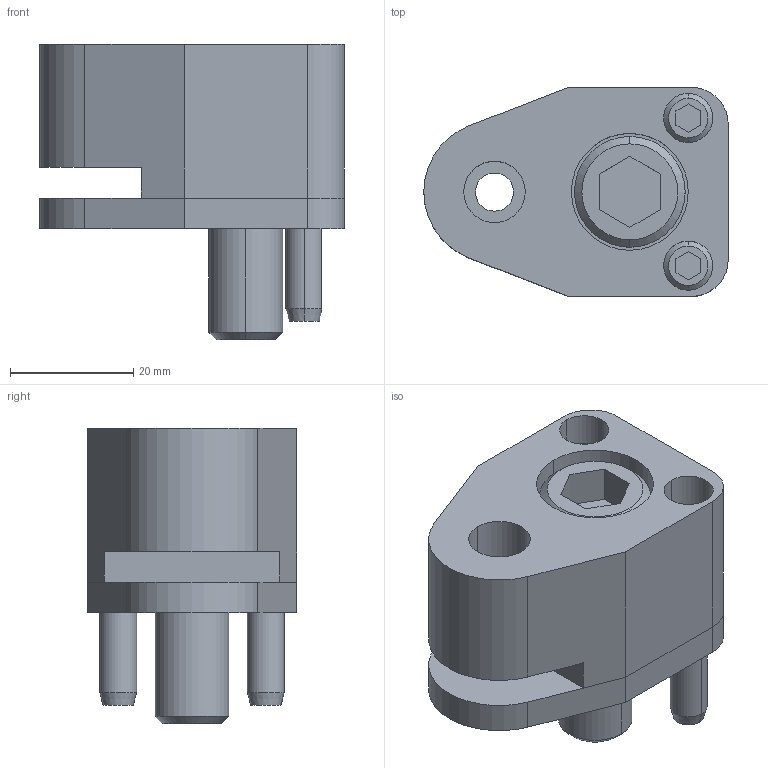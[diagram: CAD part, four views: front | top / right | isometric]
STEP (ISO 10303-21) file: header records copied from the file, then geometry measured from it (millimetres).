
FILE_DESCRIPTION(/* description */ (''),/* implementation_level */ '2;1');
FILE_NAME(/* name */ '3d_sp-fps10_02788_r00.stp',/* time_stamp */ '2011-01-10T14:10:16+09:00',/* author */ ('MISUMI'),/* organization */ (''),/* preprocessor_version */ 'ST-DEVELOPER v11',/* originating_system */ 'UGS - NX 5.0',/* authorisation */ '');
FILE_SCHEMA (('CONFIG_CONTROL_DESIGN'));
Length unit declared in the file: millimetre
Products named in the file (1): 3d_sp-fps10_02788_r00
Bounding box: 49.5 x 34 x 48 mm (x, y, z)
Volume: 39539.8 mm3; surface area: 17157.5 mm2
Topology: 7 solids, 7 shells, 129 faces, 294 edges, 189 vertices
Faces by surface type: plane 57, cylinder 50, cone 22
Entity records: 3792 total; most frequent: DIRECTION 672, CARTESIAN_POINT 666, ORIENTED_EDGE 588, EDGE_CURVE 294, AXIS2_PLACEMENT_3D 253, VERTEX_POINT 189, LINE 166, VECTOR 166
